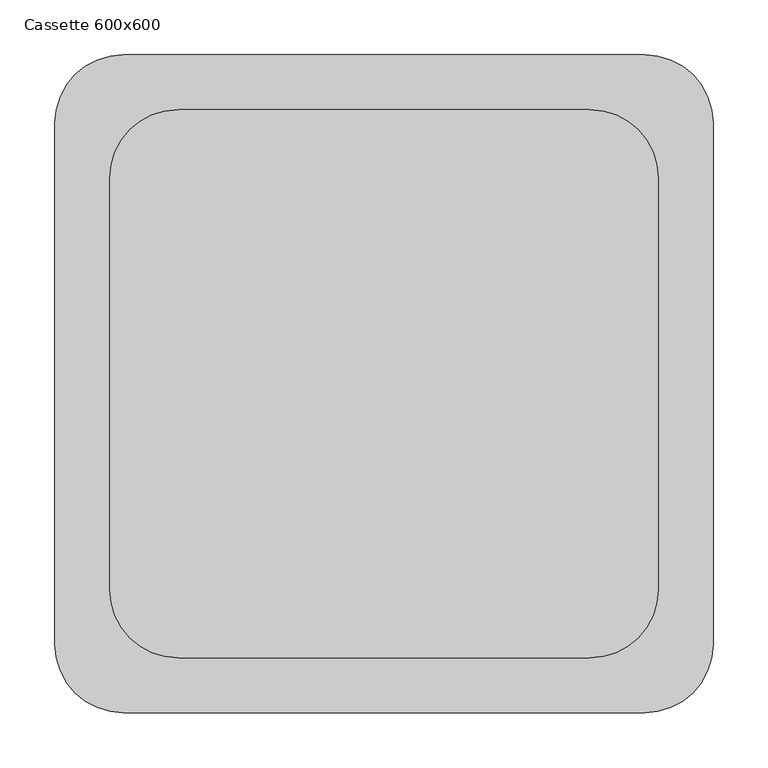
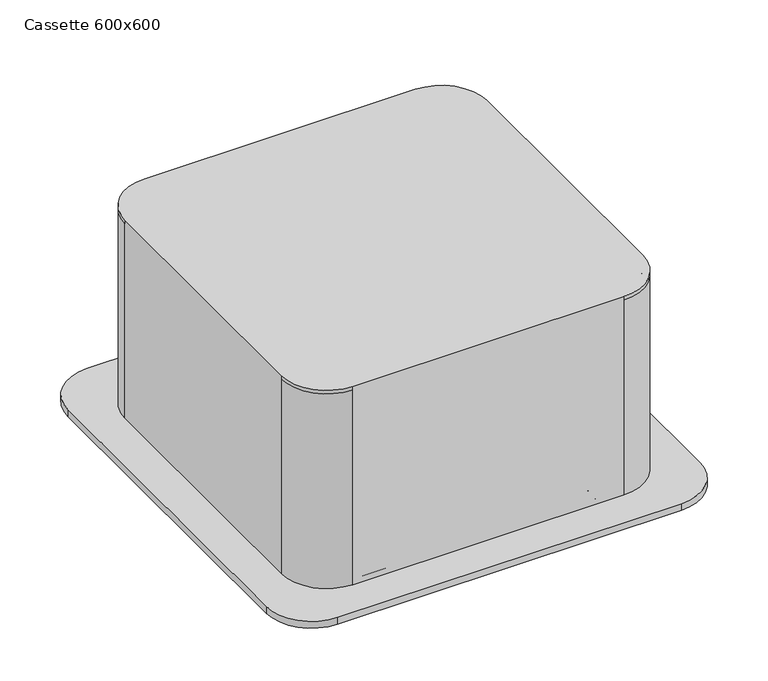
"""IFC4 building model written with IfcOpenShell, lengths in millimetres: proxy geometry, AI_Eqpmt genie clim_Cassette plafonnière : Cassette 600x600."""

from ifc_helpers import new_model, si_unit, point, frame, frame_2d, origin, place, context, project, spatial, polyline, circle_curve, trimmed, segment, composite_curve, outline, extrude, source, transform, mapped, element, save
from ifc_brep_helpers import plane_surface, cylinder_surface, revolved_surface, advanced_brep


def cassette_600x600_07ba985d(model_context):
    return source(origin(), model_context, "Body", "SolidModel", [
        extrude(outline(composite_curve([segment(polyline([(-884.9365817, -8.0), (-884.9365817, -2.0)]), True, "CONTINUOUS"), segment(trimmed(circle_curve(frame_2d((-882.9365817, -2.0)), 2.0), [point((-884.9365817, -2.0))], [point((-882.9365817, 0.0))], False, "CARTESIAN"), True, "CONTINUOUS"), segment(polyline([(-882.9365817, 0.0), (-881.9365817, 0.0)]), True, "CONTINUOUS"), segment(trimmed(circle_curve(frame_2d((-881.9365817, -2.0)), 2.0), [point((-881.9365817, 0.0))], [point((-879.9365817, -2.0))], False, "CARTESIAN"), True, "CONTINUOUS"), segment(polyline([(-879.9365817, -2.0), (-879.9365817, -8.0)]), True, "CONTINUOUS"), segment(trimmed(circle_curve(frame_2d((-881.9365817, -8.0)), 2.0), [point((-879.9365817, -8.0))], [point((-881.9365817, -10.0))], False, "CARTESIAN"), True, "CONTINUOUS"), segment(polyline([(-881.9365817, -10.0), (-882.9365817, -10.0)]), True, "CONTINUOUS"), segment(trimmed(circle_curve(frame_2d((-882.9365817, -8.0)), 2.0), [point((-882.9365817, -10.0))], [point((-884.9365817, -8.0))], False, "CARTESIAN"), True, "CONTINUOUS")], self_intersect=False)), frame((747.7336572, 0.0, 0.0), z_axis=(1.0, 0.0, 0.0), x_axis=(0.0, 1.0, 0.0)), (0.0, 0.0, 1.0), 240.0),
        extrude(outline(composite_curve([segment(polyline([(-861.8315565, -8.0), (-861.8315565, -2.0)]), True, "CONTINUOUS"), segment(trimmed(circle_curve(frame_2d((-859.8315565, -2.0)), 2.0), [point((-861.8315565, -2.0))], [point((-859.8315565, 0.0))], False, "CARTESIAN"), True, "CONTINUOUS"), segment(polyline([(-859.8315565, 0.0), (-858.8315565, 0.0)]), True, "CONTINUOUS"), segment(trimmed(circle_curve(frame_2d((-858.8315565, -2.0)), 2.0), [point((-858.8315565, 0.0))], [point((-856.8315565, -2.0))], False, "CARTESIAN"), True, "CONTINUOUS"), segment(polyline([(-856.8315565, -2.0), (-856.8315565, -8.0)]), True, "CONTINUOUS"), segment(trimmed(circle_curve(frame_2d((-858.8315565, -8.0)), 2.0), [point((-856.8315565, -8.0))], [point((-858.8315565, -10.0))], False, "CARTESIAN"), True, "CONTINUOUS"), segment(polyline([(-858.8315565, -10.0), (-859.8315565, -10.0)]), True, "CONTINUOUS"), segment(trimmed(circle_curve(frame_2d((-859.8315565, -8.0)), 2.0), [point((-859.8315565, -10.0))], [point((-861.8315565, -8.0))], False, "CARTESIAN"), True, "CONTINUOUS")], self_intersect=False)), frame((747.7336572, 0.0, 0.0), z_axis=(1.0, 0.0, 0.0), x_axis=(0.0, 1.0, 0.0)), (0.0, 0.0, 1.0), 240.0),
        extrude(outline(composite_curve([segment(polyline([(-838.7265312, -8.0), (-838.7265312, -2.0)]), True, "CONTINUOUS"), segment(trimmed(circle_curve(frame_2d((-836.7265312, -2.0)), 2.0), [point((-838.7265312, -2.0))], [point((-836.7265312, 0.0))], False, "CARTESIAN"), True, "CONTINUOUS"), segment(polyline([(-836.7265312, 0.0), (-835.7265312, 0.0)]), True, "CONTINUOUS"), segment(trimmed(circle_curve(frame_2d((-835.7265312, -2.0)), 2.0), [point((-835.7265312, 0.0))], [point((-833.7265312, -2.0))], False, "CARTESIAN"), True, "CONTINUOUS"), segment(polyline([(-833.7265312, -2.0), (-833.7265312, -8.0)]), True, "CONTINUOUS"), segment(trimmed(circle_curve(frame_2d((-835.7265312, -8.0)), 2.0), [point((-833.7265312, -8.0))], [point((-835.7265312, -10.0))], False, "CARTESIAN"), True, "CONTINUOUS"), segment(polyline([(-835.7265312, -10.0), (-836.7265312, -10.0)]), True, "CONTINUOUS"), segment(trimmed(circle_curve(frame_2d((-836.7265312, -8.0)), 2.0), [point((-836.7265312, -10.0))], [point((-838.7265312, -8.0))], False, "CARTESIAN"), True, "CONTINUOUS")], self_intersect=False)), frame((747.7336572, 0.0, 0.0), z_axis=(1.0, 0.0, 0.0), x_axis=(0.0, 1.0, 0.0)), (0.0, 0.0, 1.0), 240.0),
        extrude(outline(composite_curve([segment(polyline([(-815.621506, -8.0), (-815.621506, -2.0)]), True, "CONTINUOUS"), segment(trimmed(circle_curve(frame_2d((-813.621506, -2.0)), 2.0), [point((-815.621506, -2.0))], [point((-813.621506, 0.0))], False, "CARTESIAN"), True, "CONTINUOUS"), segment(polyline([(-813.621506, 0.0), (-812.621506, 0.0)]), True, "CONTINUOUS"), segment(trimmed(circle_curve(frame_2d((-812.621506, -2.0)), 2.0), [point((-812.621506, 0.0))], [point((-810.621506, -2.0))], False, "CARTESIAN"), True, "CONTINUOUS"), segment(polyline([(-810.621506, -2.0), (-810.621506, -8.0)]), True, "CONTINUOUS"), segment(trimmed(circle_curve(frame_2d((-812.621506, -8.0)), 2.0), [point((-810.621506, -8.0))], [point((-812.621506, -10.0))], False, "CARTESIAN"), True, "CONTINUOUS"), segment(polyline([(-812.621506, -10.0), (-813.621506, -10.0)]), True, "CONTINUOUS"), segment(trimmed(circle_curve(frame_2d((-813.621506, -8.0)), 2.0), [point((-813.621506, -10.0))], [point((-815.621506, -8.0))], False, "CARTESIAN"), True, "CONTINUOUS")], self_intersect=False)), frame((747.7336572, 0.0, 0.0), z_axis=(1.0, 0.0, 0.0), x_axis=(0.0, 1.0, 0.0)), (0.0, 0.0, 1.0), 240.0),
        extrude(outline(composite_curve([segment(polyline([(-700.0963797, -8.0), (-700.0963797, -2.0)]), True, "CONTINUOUS"), segment(trimmed(circle_curve(frame_2d((-698.0963797, -2.0)), 2.0), [point((-700.0963797, -2.0))], [point((-698.0963797, 0.0))], False, "CARTESIAN"), True, "CONTINUOUS"), segment(polyline([(-698.0963797, 0.0), (-697.0963797, 0.0)]), True, "CONTINUOUS"), segment(trimmed(circle_curve(frame_2d((-697.0963797, -2.0)), 2.0), [point((-697.0963797, 0.0))], [point((-695.0963797, -2.0))], False, "CARTESIAN"), True, "CONTINUOUS"), segment(polyline([(-695.0963797, -2.0), (-695.0963797, -8.0)]), True, "CONTINUOUS"), segment(trimmed(circle_curve(frame_2d((-697.0963797, -8.0)), 2.0), [point((-695.0963797, -8.0))], [point((-697.0963797, -10.0))], False, "CARTESIAN"), True, "CONTINUOUS"), segment(polyline([(-697.0963797, -10.0), (-698.0963797, -10.0)]), True, "CONTINUOUS"), segment(trimmed(circle_curve(frame_2d((-698.0963797, -8.0)), 2.0), [point((-698.0963797, -10.0))], [point((-700.0963797, -8.0))], False, "CARTESIAN"), True, "CONTINUOUS")], self_intersect=False)), frame((747.7336572, 0.0, 0.0), z_axis=(1.0, 0.0, 0.0), x_axis=(0.0, 1.0, 0.0)), (0.0, 0.0, 1.0), 240.0),
        extrude(outline(composite_curve([segment(polyline([(-723.201405, -8.0), (-723.201405, -2.0)]), True, "CONTINUOUS"), segment(trimmed(circle_curve(frame_2d((-721.201405, -2.0)), 2.0), [point((-723.201405, -2.0))], [point((-721.201405, 0.0))], False, "CARTESIAN"), True, "CONTINUOUS"), segment(polyline([(-721.201405, 0.0), (-720.201405, 0.0)]), True, "CONTINUOUS"), segment(trimmed(circle_curve(frame_2d((-720.201405, -2.0)), 2.0), [point((-720.201405, 0.0))], [point((-718.201405, -2.0))], False, "CARTESIAN"), True, "CONTINUOUS"), segment(polyline([(-718.201405, -2.0), (-718.201405, -8.0)]), True, "CONTINUOUS"), segment(trimmed(circle_curve(frame_2d((-720.201405, -8.0)), 2.0), [point((-718.201405, -8.0))], [point((-720.201405, -10.0))], False, "CARTESIAN"), True, "CONTINUOUS"), segment(polyline([(-720.201405, -10.0), (-721.201405, -10.0)]), True, "CONTINUOUS"), segment(trimmed(circle_curve(frame_2d((-721.201405, -8.0)), 2.0), [point((-721.201405, -10.0))], [point((-723.201405, -8.0))], False, "CARTESIAN"), True, "CONTINUOUS")], self_intersect=False)), frame((747.7336572, 0.0, 0.0), z_axis=(1.0, 0.0, 0.0), x_axis=(0.0, 1.0, 0.0)), (0.0, 0.0, 1.0), 240.0),
        extrude(outline(composite_curve([segment(polyline([(-746.3064302, -8.0), (-746.3064302, -2.0)]), True, "CONTINUOUS"), segment(trimmed(circle_curve(frame_2d((-744.3064302, -2.0)), 2.0), [point((-746.3064302, -2.0))], [point((-744.3064302, 0.0))], False, "CARTESIAN"), True, "CONTINUOUS"), segment(polyline([(-744.3064302, 0.0), (-743.3064302, 0.0)]), True, "CONTINUOUS"), segment(trimmed(circle_curve(frame_2d((-743.3064302, -2.0)), 2.0), [point((-743.3064302, 0.0))], [point((-741.3064302, -2.0))], False, "CARTESIAN"), True, "CONTINUOUS"), segment(polyline([(-741.3064302, -2.0), (-741.3064302, -8.0)]), True, "CONTINUOUS"), segment(trimmed(circle_curve(frame_2d((-743.3064302, -8.0)), 2.0), [point((-741.3064302, -8.0))], [point((-743.3064302, -10.0))], False, "CARTESIAN"), True, "CONTINUOUS"), segment(polyline([(-743.3064302, -10.0), (-744.3064302, -10.0)]), True, "CONTINUOUS"), segment(trimmed(circle_curve(frame_2d((-744.3064302, -8.0)), 2.0), [point((-744.3064302, -10.0))], [point((-746.3064302, -8.0))], False, "CARTESIAN"), True, "CONTINUOUS")], self_intersect=False)), frame((747.7336572, 0.0, 0.0), z_axis=(1.0, 0.0, 0.0), x_axis=(0.0, 1.0, 0.0)), (0.0, 0.0, 1.0), 240.0),
        extrude(outline(composite_curve([segment(polyline([(-769.4114555, -8.0), (-769.4114555, -2.0)]), True, "CONTINUOUS"), segment(trimmed(circle_curve(frame_2d((-767.4114555, -2.0)), 2.0), [point((-769.4114555, -2.0))], [point((-767.4114555, 0.0))], False, "CARTESIAN"), True, "CONTINUOUS"), segment(polyline([(-767.4114555, 0.0), (-766.4114555, 0.0)]), True, "CONTINUOUS"), segment(trimmed(circle_curve(frame_2d((-766.4114555, -2.0)), 2.0), [point((-766.4114555, 0.0))], [point((-764.4114555, -2.0))], False, "CARTESIAN"), True, "CONTINUOUS"), segment(polyline([(-764.4114555, -2.0), (-764.4114555, -8.0)]), True, "CONTINUOUS"), segment(trimmed(circle_curve(frame_2d((-766.4114555, -8.0)), 2.0), [point((-764.4114555, -8.0))], [point((-766.4114555, -10.0))], False, "CARTESIAN"), True, "CONTINUOUS"), segment(polyline([(-766.4114555, -10.0), (-767.4114555, -10.0)]), True, "CONTINUOUS"), segment(trimmed(circle_curve(frame_2d((-767.4114555, -8.0)), 2.0), [point((-767.4114555, -10.0))], [point((-769.4114555, -8.0))], False, "CARTESIAN"), True, "CONTINUOUS")], self_intersect=False)), frame((747.7336572, 0.0, 0.0), z_axis=(1.0, 0.0, 0.0), x_axis=(0.0, 1.0, 0.0)), (0.0, 0.0, 1.0), 240.0),
        extrude(outline(composite_curve([segment(polyline([(-908.041607, -8.0), (-908.041607, -2.0)]), True, "CONTINUOUS"), segment(trimmed(circle_curve(frame_2d((-906.041607, -2.0)), 2.0), [point((-908.041607, -2.0))], [point((-906.041607, 0.0))], False, "CARTESIAN"), True, "CONTINUOUS"), segment(polyline([(-906.041607, 0.0), (-905.041607, 0.0)]), True, "CONTINUOUS"), segment(trimmed(circle_curve(frame_2d((-905.041607, -2.0)), 2.0), [point((-905.041607, 0.0))], [point((-903.041607, -2.0))], False, "CARTESIAN"), True, "CONTINUOUS"), segment(polyline([(-903.041607, -2.0), (-903.041607, -8.0)]), True, "CONTINUOUS"), segment(trimmed(circle_curve(frame_2d((-905.041607, -8.0)), 2.0), [point((-903.041607, -8.0))], [point((-905.041607, -10.0))], False, "CARTESIAN"), True, "CONTINUOUS"), segment(polyline([(-905.041607, -10.0), (-906.041607, -10.0)]), True, "CONTINUOUS"), segment(trimmed(circle_curve(frame_2d((-906.041607, -8.0)), 2.0), [point((-906.041607, -10.0))], [point((-908.041607, -8.0))], False, "CARTESIAN"), True, "CONTINUOUS")], self_intersect=False)), frame((747.7336572, 0.0, 0.0), z_axis=(1.0, 0.0, 0.0), x_axis=(0.0, 1.0, 0.0)), (0.0, 0.0, 1.0), 240.0),
        extrude(outline(composite_curve([segment(polyline([(-676.9913545, -8.0), (-676.9913545, -2.0)]), True, "CONTINUOUS"), segment(trimmed(circle_curve(frame_2d((-674.9913545, -2.0)), 2.0), [point((-676.9913545, -2.0))], [point((-674.9913545, 0.0))], False, "CARTESIAN"), True, "CONTINUOUS"), segment(polyline([(-674.9913545, 0.0), (-673.9913545, 0.0)]), True, "CONTINUOUS"), segment(trimmed(circle_curve(frame_2d((-673.9913545, -2.0)), 2.0), [point((-673.9913545, 0.0))], [point((-671.9913545, -2.0))], False, "CARTESIAN"), True, "CONTINUOUS"), segment(polyline([(-671.9913545, -2.0), (-671.9913545, -8.0)]), True, "CONTINUOUS"), segment(trimmed(circle_curve(frame_2d((-673.9913545, -8.0)), 2.0), [point((-671.9913545, -8.0))], [point((-673.9913545, -10.0))], False, "CARTESIAN"), True, "CONTINUOUS"), segment(polyline([(-673.9913545, -10.0), (-674.9913545, -10.0)]), True, "CONTINUOUS"), segment(trimmed(circle_curve(frame_2d((-674.9913545, -8.0)), 2.0), [point((-674.9913545, -10.0))], [point((-676.9913545, -8.0))], False, "CARTESIAN"), True, "CONTINUOUS")], self_intersect=False)), frame((747.7336572, 0.0, 0.0), z_axis=(1.0, 0.0, 0.0), x_axis=(0.0, 1.0, 0.0)), (0.0, 0.0, 1.0), 240.0),
        extrude(outline(composite_curve([segment(polyline([(-792.5164807, -8.0), (-792.5164807, -2.0)]), True, "CONTINUOUS"), segment(trimmed(circle_curve(frame_2d((-790.5164807, -2.0)), 2.0), [point((-792.5164807, -2.0))], [point((-790.5164807, 0.0))], False, "CARTESIAN"), True, "CONTINUOUS"), segment(polyline([(-790.5164807, 0.0), (-789.5164807, 0.0)]), True, "CONTINUOUS"), segment(trimmed(circle_curve(frame_2d((-789.5164807, -2.0)), 2.0), [point((-789.5164807, 0.0))], [point((-787.5164807, -2.0))], False, "CARTESIAN"), True, "CONTINUOUS"), segment(polyline([(-787.5164807, -2.0), (-787.5164807, -8.0)]), True, "CONTINUOUS"), segment(trimmed(circle_curve(frame_2d((-789.5164807, -8.0)), 2.0), [point((-787.5164807, -8.0))], [point((-789.5164807, -10.0))], False, "CARTESIAN"), True, "CONTINUOUS"), segment(polyline([(-789.5164807, -10.0), (-790.5164807, -10.0)]), True, "CONTINUOUS"), segment(trimmed(circle_curve(frame_2d((-790.5164807, -8.0)), 2.0), [point((-790.5164807, -10.0))], [point((-792.5164807, -8.0))], False, "CARTESIAN"), True, "CONTINUOUS")], self_intersect=False)), frame((747.7336572, 0.0, 0.0), z_axis=(1.0, 0.0, 0.0), x_axis=(0.0, 1.0, 0.0)), (0.0, 0.0, 1.0), 240.0),
        extrude(outline(polyline([(992.7336572, -915.0164807), (742.7336572, -915.0164807), (742.7336572, -665.0164807), (992.7336572, -665.0164807), (992.7336572, -915.0164807)]), holes=[polyline([(987.7336572, -910.0164807), (987.7336572, -670.0164807), (747.7336572, -670.0164807), (747.7336572, -910.0164807), (987.7336572, -910.0164807)])]), frame((0.0, 0.0, -10.0), z_axis=(0.0, 0.0, 1.0), x_axis=(1.0, 0.0, 0.0)), (0.0, 0.0, 1.0), 10.0),
        extrude(outline(composite_curve([segment(polyline([(-5.8786797, 1097.1478708), (-1.636039, 1092.9052301)]), True, "CONTINUOUS"), segment(trimmed(circle_curve(frame_2d((-3.0502525, 1091.4910166)), 2.0), [point((-1.636039, 1092.9052301))], [point((-1.636039, 1090.076803))], False, "CARTESIAN"), True, "CONTINUOUS"), segment(polyline([(-1.636039, 1090.076803), (-2.3431458, 1089.3696962)]), True, "CONTINUOUS"), segment(trimmed(circle_curve(frame_2d((-3.7573593, 1090.7839098)), 2.0), [point((-2.3431458, 1089.3696962))], [point((-5.1715729, 1089.3696962))], False, "CARTESIAN"), True, "CONTINUOUS"), segment(polyline([(-5.1715729, 1089.3696962), (-9.4142136, 1093.6123369)]), True, "CONTINUOUS"), segment(trimmed(circle_curve(frame_2d((-8.0, 1095.0265505)), 2.0), [point((-9.4142136, 1093.6123369))], [point((-9.4142136, 1096.440764))], False, "CARTESIAN"), True, "CONTINUOUS"), segment(polyline([(-9.4142136, 1096.440764), (-8.7071068, 1097.1478708)]), True, "CONTINUOUS"), segment(trimmed(circle_curve(frame_2d((-7.2928932, 1095.7336572)), 2.0), [point((-8.7071068, 1097.1478708))], [point((-5.8786797, 1097.1478708))], False, "CARTESIAN"), True, "CONTINUOUS")], self_intersect=False)), frame((0.0, -951.6831474, 0.0), z_axis=(0.0, 1.0, 0.0), x_axis=(0.0, 0.0, 1.0)), (0.0, 0.0, 1.0), 323.3333333),
        extrude(outline(composite_curve([segment(polyline([(-5.8786797, 1060.5420627), (-1.636039, 1056.299422)]), True, "CONTINUOUS"), segment(trimmed(circle_curve(frame_2d((-3.0502525, 1054.8852085)), 2.0), [point((-1.636039, 1056.299422))], [point((-1.636039, 1053.4709949))], False, "CARTESIAN"), True, "CONTINUOUS"), segment(polyline([(-1.636039, 1053.4709949), (-2.3431458, 1052.7638881)]), True, "CONTINUOUS"), segment(trimmed(circle_curve(frame_2d((-3.7573593, 1054.1781017)), 2.0), [point((-2.3431458, 1052.7638881))], [point((-5.1715729, 1052.7638881))], False, "CARTESIAN"), True, "CONTINUOUS"), segment(polyline([(-5.1715729, 1052.7638881), (-9.4142136, 1057.0065288)]), True, "CONTINUOUS"), segment(trimmed(circle_curve(frame_2d((-8.0, 1058.4207424)), 2.0), [point((-9.4142136, 1057.0065288))], [point((-9.4142136, 1059.8349559))], False, "CARTESIAN"), True, "CONTINUOUS"), segment(polyline([(-9.4142136, 1059.8349559), (-8.7071068, 1060.5420627)]), True, "CONTINUOUS"), segment(trimmed(circle_curve(frame_2d((-7.2928932, 1059.1278492)), 2.0), [point((-8.7071068, 1060.5420627))], [point((-5.8786797, 1060.5420627))], False, "CARTESIAN"), True, "CONTINUOUS")], self_intersect=False)), frame((0.0, -951.6831474, 0.0), z_axis=(0.0, 1.0, 0.0), x_axis=(0.0, 0.0, 1.0)), (0.0, 0.0, 1.0), 323.3333333),
        extrude(outline(composite_curve([segment(polyline([(-5.8786797, 1078.8449668), (-1.636039, 1074.6023261)]), True, "CONTINUOUS"), segment(trimmed(circle_curve(frame_2d((-3.0502525, 1073.1881125)), 2.0), [point((-1.636039, 1074.6023261))], [point((-1.636039, 1071.773899))], False, "CARTESIAN"), True, "CONTINUOUS"), segment(polyline([(-1.636039, 1071.773899), (-2.3431458, 1071.0667922)]), True, "CONTINUOUS"), segment(trimmed(circle_curve(frame_2d((-3.7573593, 1072.4810057)), 2.0), [point((-2.3431458, 1071.0667922))], [point((-5.1715729, 1071.0667922))], False, "CARTESIAN"), True, "CONTINUOUS"), segment(polyline([(-5.1715729, 1071.0667922), (-9.4142136, 1075.3094329)]), True, "CONTINUOUS"), segment(trimmed(circle_curve(frame_2d((-8.0, 1076.7236464)), 2.0), [point((-9.4142136, 1075.3094329))], [point((-9.4142136, 1078.13786))], False, "CARTESIAN"), True, "CONTINUOUS"), segment(polyline([(-9.4142136, 1078.13786), (-8.7071068, 1078.8449668)]), True, "CONTINUOUS"), segment(trimmed(circle_curve(frame_2d((-7.2928932, 1077.4307532)), 2.0), [point((-8.7071068, 1078.8449668))], [point((-5.8786797, 1078.8449668))], False, "CARTESIAN"), True, "CONTINUOUS")], self_intersect=False)), frame((0.0, -951.6831474, 0.0), z_axis=(0.0, 1.0, 0.0), x_axis=(0.0, 0.0, 1.0)), (0.0, 0.0, 1.0), 323.3333333),
        extrude(outline(polyline([(1102.7336572, -956.6831474), (1047.1781017, -956.6831474), (1047.1781017, -623.3498141), (1102.7336572, -623.3498141), (1102.7336572, -956.6831474)]), holes=[polyline([(1097.7336572, -951.6831474), (1097.7336572, -628.3498141), (1052.1781017, -628.3498141), (1052.1781017, -951.6831474), (1097.7336572, -951.6831474)])]), frame((0.0, 0.0, -10.0), z_axis=(0.0, 0.0, 1.0), x_axis=(1.0, 0.0, 0.0)), (0.0, 0.0, 1.0), 10.0),
        extrude(outline(composite_curve([segment(trimmed(circle_curve(frame_2d((-7.2928932, 639.7336572)), 2.0), [point((-5.8786797, 638.3194437))], [point((-8.7071068, 638.3194437))], False, "CARTESIAN"), True, "CONTINUOUS"), segment(polyline([(-8.7071068, 638.3194437), (-9.4142136, 639.0265505)]), True, "CONTINUOUS"), segment(trimmed(circle_curve(frame_2d((-8.0, 640.440764)), 2.0), [point((-9.4142136, 639.0265505))], [point((-9.4142136, 641.8549776))], False, "CARTESIAN"), True, "CONTINUOUS"), segment(polyline([(-9.4142136, 641.8549776), (-5.1715729, 646.0976183)]), True, "CONTINUOUS"), segment(trimmed(circle_curve(frame_2d((-3.7573593, 644.6834047)), 2.0), [point((-5.1715729, 646.0976183))], [point((-2.3431458, 646.0976183))], False, "CARTESIAN"), True, "CONTINUOUS"), segment(polyline([(-2.3431458, 646.0976183), (-1.636039, 645.3905115)]), True, "CONTINUOUS"), segment(trimmed(circle_curve(frame_2d((-3.0502525, 643.9762979)), 2.0), [point((-1.636039, 645.3905115))], [point((-1.636039, 642.5620844))], False, "CARTESIAN"), True, "CONTINUOUS"), segment(polyline([(-1.636039, 642.5620844), (-5.8786797, 638.3194437)]), True, "CONTINUOUS")], self_intersect=False)), frame((0.0, -951.6831474, 0.0), z_axis=(0.0, 1.0, 0.0), x_axis=(0.0, 0.0, 1.0)), (0.0, 0.0, 1.0), 323.3333333),
        extrude(outline(composite_curve([segment(trimmed(circle_curve(frame_2d((-7.2928932, 676.3394653)), 2.0), [point((-5.8786797, 674.9252518))], [point((-8.7071068, 674.9252518))], False, "CARTESIAN"), True, "CONTINUOUS"), segment(polyline([(-8.7071068, 674.9252518), (-9.4142136, 675.6323586)]), True, "CONTINUOUS"), segment(trimmed(circle_curve(frame_2d((-8.0, 677.0465721)), 2.0), [point((-9.4142136, 675.6323586))], [point((-9.4142136, 678.4607857))], False, "CARTESIAN"), True, "CONTINUOUS"), segment(polyline([(-9.4142136, 678.4607857), (-5.1715729, 682.7034264)]), True, "CONTINUOUS"), segment(trimmed(circle_curve(frame_2d((-3.7573593, 681.2892128)), 2.0), [point((-5.1715729, 682.7034264))], [point((-2.3431458, 682.7034264))], False, "CARTESIAN"), True, "CONTINUOUS"), segment(polyline([(-2.3431458, 682.7034264), (-1.636039, 681.9963196)]), True, "CONTINUOUS"), segment(trimmed(circle_curve(frame_2d((-3.0502525, 680.582106)), 2.0), [point((-1.636039, 681.9963196))], [point((-1.636039, 679.1678925))], False, "CARTESIAN"), True, "CONTINUOUS"), segment(polyline([(-1.636039, 679.1678925), (-5.8786797, 674.9252518)]), True, "CONTINUOUS")], self_intersect=False)), frame((0.0, -951.6831474, 0.0), z_axis=(0.0, 1.0, 0.0), x_axis=(0.0, 0.0, 1.0)), (0.0, 0.0, 1.0), 323.3333333),
        extrude(outline(composite_curve([segment(trimmed(circle_curve(frame_2d((-7.2928932, 658.0365613)), 2.0), [point((-5.8786797, 656.6223477))], [point((-8.7071068, 656.6223477))], False, "CARTESIAN"), True, "CONTINUOUS"), segment(polyline([(-8.7071068, 656.6223477), (-9.4142136, 657.3294545)]), True, "CONTINUOUS"), segment(trimmed(circle_curve(frame_2d((-8.0, 658.7436681)), 2.0), [point((-9.4142136, 657.3294545))], [point((-9.4142136, 660.1578816))], False, "CARTESIAN"), True, "CONTINUOUS"), segment(polyline([(-9.4142136, 660.1578816), (-5.1715729, 664.4005223)]), True, "CONTINUOUS"), segment(trimmed(circle_curve(frame_2d((-3.7573593, 662.9863088)), 2.0), [point((-5.1715729, 664.4005223))], [point((-2.3431458, 664.4005223))], False, "CARTESIAN"), True, "CONTINUOUS"), segment(polyline([(-2.3431458, 664.4005223), (-1.636039, 663.6934155)]), True, "CONTINUOUS"), segment(trimmed(circle_curve(frame_2d((-3.0502525, 662.279202)), 2.0), [point((-1.636039, 663.6934155))], [point((-1.636039, 660.8649884))], False, "CARTESIAN"), True, "CONTINUOUS"), segment(polyline([(-1.636039, 660.8649884), (-5.8786797, 656.6223477)]), True, "CONTINUOUS")], self_intersect=False)), frame((0.0, -951.6831474, 0.0), z_axis=(0.0, 1.0, 0.0), x_axis=(0.0, 0.0, 1.0)), (0.0, 0.0, 1.0), 323.3333333),
        extrude(outline(polyline([(632.7336572, -956.6831474), (632.7336572, -623.3498141), (688.2892128, -623.3498141), (688.2892128, -956.6831474), (632.7336572, -956.6831474)]), holes=[polyline([(637.7336572, -951.6831474), (683.2892128, -951.6831474), (683.2892128, -628.3498141), (637.7336572, -628.3498141), (637.7336572, -951.6831474)])]), frame((0.0, 0.0, -10.0), z_axis=(0.0, 0.0, 1.0), x_axis=(1.0, 0.0, 0.0)), (0.0, 0.0, 1.0), 10.0),
        extrude(outline(composite_curve([segment(trimmed(circle_curve(frame_2d((-562.0164807, -7.2928932)), 2.0), [point((-560.6022672, -5.8786797))], [point((-560.6022672, -8.7071068))], False, "CARTESIAN"), True, "CONTINUOUS"), segment(polyline([(-560.6022672, -8.7071068), (-561.3093739, -9.4142136)]), True, "CONTINUOUS"), segment(trimmed(circle_curve(frame_2d((-562.7235875, -8.0)), 2.0), [point((-561.3093739, -9.4142136))], [point((-564.1378011, -9.4142136))], False, "CARTESIAN"), True, "CONTINUOUS"), segment(polyline([(-564.1378011, -9.4142136), (-568.3804418, -5.1715729)]), True, "CONTINUOUS"), segment(trimmed(circle_curve(frame_2d((-566.9662282, -3.7573593)), 2.0), [point((-568.3804418, -5.1715729))], [point((-568.3804418, -2.3431458))], False, "CARTESIAN"), True, "CONTINUOUS"), segment(polyline([(-568.3804418, -2.3431458), (-567.673335, -1.636039)]), True, "CONTINUOUS"), segment(trimmed(circle_curve(frame_2d((-566.2591214, -3.0502525)), 2.0), [point((-567.673335, -1.636039))], [point((-564.8449078, -1.636039))], False, "CARTESIAN"), True, "CONTINUOUS"), segment(polyline([(-564.8449078, -1.636039), (-560.6022672, -5.8786797)]), True, "CONTINUOUS")], self_intersect=False)), frame((706.0669906, 0.0, 0.0), z_axis=(1.0, 0.0, 0.0), x_axis=(0.0, 1.0, 0.0)), (0.0, 0.0, 1.0), 323.3333333),
        extrude(outline(composite_curve([segment(trimmed(circle_curve(frame_2d((-598.6222888, -7.2928932)), 2.0), [point((-597.2080752, -5.8786797))], [point((-597.2080752, -8.7071068))], False, "CARTESIAN"), True, "CONTINUOUS"), segment(polyline([(-597.2080752, -8.7071068), (-597.915182, -9.4142136)]), True, "CONTINUOUS"), segment(trimmed(circle_curve(frame_2d((-599.3293956, -8.0)), 2.0), [point((-597.915182, -9.4142136))], [point((-600.7436092, -9.4142136))], False, "CARTESIAN"), True, "CONTINUOUS"), segment(polyline([(-600.7436092, -9.4142136), (-604.9862498, -5.1715729)]), True, "CONTINUOUS"), segment(trimmed(circle_curve(frame_2d((-603.5720363, -3.7573593)), 2.0), [point((-604.9862498, -5.1715729))], [point((-604.9862498, -2.3431458))], False, "CARTESIAN"), True, "CONTINUOUS"), segment(polyline([(-604.9862498, -2.3431458), (-604.2791431, -1.636039)]), True, "CONTINUOUS"), segment(trimmed(circle_curve(frame_2d((-602.8649295, -3.0502525)), 2.0), [point((-604.2791431, -1.636039))], [point((-601.4507159, -1.636039))], False, "CARTESIAN"), True, "CONTINUOUS"), segment(polyline([(-601.4507159, -1.636039), (-597.2080752, -5.8786797)]), True, "CONTINUOUS")], self_intersect=False)), frame((706.0669906, 0.0, 0.0), z_axis=(1.0, 0.0, 0.0), x_axis=(0.0, 1.0, 0.0)), (0.0, 0.0, 1.0), 323.3333333),
        extrude(outline(composite_curve([segment(trimmed(circle_curve(frame_2d((-580.3193848, -7.2928932)), 2.0), [point((-578.9051712, -5.8786797))], [point((-578.9051712, -8.7071068))], False, "CARTESIAN"), True, "CONTINUOUS"), segment(polyline([(-578.9051712, -8.7071068), (-579.612278, -9.4142136)]), True, "CONTINUOUS"), segment(trimmed(circle_curve(frame_2d((-581.0264915, -8.0)), 2.0), [point((-579.612278, -9.4142136))], [point((-582.4407051, -9.4142136))], False, "CARTESIAN"), True, "CONTINUOUS"), segment(polyline([(-582.4407051, -9.4142136), (-586.6833458, -5.1715729)]), True, "CONTINUOUS"), segment(trimmed(circle_curve(frame_2d((-585.2691322, -3.7573593)), 2.0), [point((-586.6833458, -5.1715729))], [point((-586.6833458, -2.3431458))], False, "CARTESIAN"), True, "CONTINUOUS"), segment(polyline([(-586.6833458, -2.3431458), (-585.976239, -1.636039)]), True, "CONTINUOUS"), segment(trimmed(circle_curve(frame_2d((-584.5620255, -3.0502525)), 2.0), [point((-585.976239, -1.636039))], [point((-583.1478119, -1.636039))], False, "CARTESIAN"), True, "CONTINUOUS"), segment(polyline([(-583.1478119, -1.636039), (-578.9051712, -5.8786797)]), True, "CONTINUOUS")], self_intersect=False)), frame((706.0669906, 0.0, 0.0), z_axis=(1.0, 0.0, 0.0), x_axis=(0.0, 1.0, 0.0)), (0.0, 0.0, 1.0), 323.3333333),
        extrude(outline(polyline([(1034.4003239, -555.0164807), (1034.4003239, -610.5720363), (701.0669906, -610.5720363), (701.0669906, -555.0164807), (1034.4003239, -555.0164807)]), holes=[polyline([(1029.4003239, -560.0164807), (706.0669906, -560.0164807), (706.0669906, -605.5720363), (1029.4003239, -605.5720363), (1029.4003239, -560.0164807)])]), frame((0.0, 0.0, -10.0), z_axis=(0.0, 0.0, 1.0), x_axis=(1.0, 0.0, 0.0)), (0.0, 0.0, 1.0), 10.0),
        extrude(outline(composite_curve([segment(polyline([(-1019.4306943, -5.8786797), (-1015.1880536, -1.636039)]), True, "CONTINUOUS"), segment(trimmed(circle_curve(frame_2d((-1013.77384, -3.0502525)), 2.0), [point((-1015.1880536, -1.636039))], [point((-1012.3596265, -1.636039))], False, "CARTESIAN"), True, "CONTINUOUS"), segment(polyline([(-1012.3596265, -1.636039), (-1011.6525197, -2.3431458)]), True, "CONTINUOUS"), segment(trimmed(circle_curve(frame_2d((-1013.0667333, -3.7573593)), 2.0), [point((-1011.6525197, -2.3431458))], [point((-1011.6525197, -5.1715729))], False, "CARTESIAN"), True, "CONTINUOUS"), segment(polyline([(-1011.6525197, -5.1715729), (-1015.8951604, -9.4142136)]), True, "CONTINUOUS"), segment(trimmed(circle_curve(frame_2d((-1017.3093739, -8.0)), 2.0), [point((-1015.8951604, -9.4142136))], [point((-1018.7235875, -9.4142136))], False, "CARTESIAN"), True, "CONTINUOUS"), segment(polyline([(-1018.7235875, -9.4142136), (-1019.4306943, -8.7071068)]), True, "CONTINUOUS"), segment(trimmed(circle_curve(frame_2d((-1018.0164807, -7.2928932)), 2.0), [point((-1019.4306943, -8.7071068))], [point((-1019.4306943, -5.8786797))], False, "CARTESIAN"), True, "CONTINUOUS")], self_intersect=False)), frame((706.0669906, 0.0, 0.0), z_axis=(1.0, 0.0, 0.0), x_axis=(0.0, 1.0, 0.0)), (0.0, 0.0, 1.0), 323.3333333),
        extrude(outline(composite_curve([segment(polyline([(-982.8248862, -5.8786797), (-978.5822455, -1.636039)]), True, "CONTINUOUS"), segment(trimmed(circle_curve(frame_2d((-977.1680319, -3.0502525)), 2.0), [point((-978.5822455, -1.636039))], [point((-975.7538184, -1.636039))], False, "CARTESIAN"), True, "CONTINUOUS"), segment(polyline([(-975.7538184, -1.636039), (-975.0467116, -2.3431458)]), True, "CONTINUOUS"), segment(trimmed(circle_curve(frame_2d((-976.4609252, -3.7573593)), 2.0), [point((-975.0467116, -2.3431458))], [point((-975.0467116, -5.1715729))], False, "CARTESIAN"), True, "CONTINUOUS"), segment(polyline([(-975.0467116, -5.1715729), (-979.2893523, -9.4142136)]), True, "CONTINUOUS"), segment(trimmed(circle_curve(frame_2d((-980.7035659, -8.0)), 2.0), [point((-979.2893523, -9.4142136))], [point((-982.1177794, -9.4142136))], False, "CARTESIAN"), True, "CONTINUOUS"), segment(polyline([(-982.1177794, -9.4142136), (-982.8248862, -8.7071068)]), True, "CONTINUOUS"), segment(trimmed(circle_curve(frame_2d((-981.4106726, -7.2928932)), 2.0), [point((-982.8248862, -8.7071068))], [point((-982.8248862, -5.8786797))], False, "CARTESIAN"), True, "CONTINUOUS")], self_intersect=False)), frame((706.0669906, 0.0, 0.0), z_axis=(1.0, 0.0, 0.0), x_axis=(0.0, 1.0, 0.0)), (0.0, 0.0, 1.0), 323.3333333),
        extrude(outline(composite_curve([segment(polyline([(-1001.1277902, -5.8786797), (-996.8851496, -1.636039)]), True, "CONTINUOUS"), segment(trimmed(circle_curve(frame_2d((-995.470936, -3.0502525)), 2.0), [point((-996.8851496, -1.636039))], [point((-994.0567224, -1.636039))], False, "CARTESIAN"), True, "CONTINUOUS"), segment(polyline([(-994.0567224, -1.636039), (-993.3496156, -2.3431458)]), True, "CONTINUOUS"), segment(trimmed(circle_curve(frame_2d((-994.7638292, -3.7573593)), 2.0), [point((-993.3496156, -2.3431458))], [point((-993.3496156, -5.1715729))], False, "CARTESIAN"), True, "CONTINUOUS"), segment(polyline([(-993.3496156, -5.1715729), (-997.5922563, -9.4142136)]), True, "CONTINUOUS"), segment(trimmed(circle_curve(frame_2d((-999.0064699, -8.0)), 2.0), [point((-997.5922563, -9.4142136))], [point((-1000.4206835, -9.4142136))], False, "CARTESIAN"), True, "CONTINUOUS"), segment(polyline([(-1000.4206835, -9.4142136), (-1001.1277902, -8.7071068)]), True, "CONTINUOUS"), segment(trimmed(circle_curve(frame_2d((-999.7135767, -7.2928932)), 2.0), [point((-1001.1277902, -8.7071068))], [point((-1001.1277902, -5.8786797))], False, "CARTESIAN"), True, "CONTINUOUS")], self_intersect=False)), frame((706.0669906, 0.0, 0.0), z_axis=(1.0, 0.0, 0.0), x_axis=(0.0, 1.0, 0.0)), (0.0, 0.0, 1.0), 323.3333333),
        extrude(outline(polyline([(1034.4003239, -1025.0164807), (701.0669906, -1025.0164807), (701.0669906, -969.4609252), (1034.4003239, -969.4609252), (1034.4003239, -1025.0164807)]), holes=[polyline([(1029.4003239, -1020.0164807), (1029.4003239, -974.4609252), (706.0669906, -974.4609252), (706.0669906, -1020.0164807), (1029.4003239, -1020.0164807)])]), frame((0.0, 0.0, -10.0), z_axis=(0.0, 0.0, 1.0), x_axis=(1.0, 0.0, 0.0)), (0.0, 0.0, 1.0), 10.0),
        advanced_brep(
        [(680.2336572, -1040.0164807, 290.0), (1055.2336572, -1040.0164807, 290.0), (1117.7336572, -977.5164807, 290.0), (1117.7336572, -602.5164807, 290.0), (1055.2336572, -540.0164807, 290.0), (680.2336572, -540.0164807, 290.0), (617.7336572, -602.5164807, 290.0), (617.7336572, -977.5164807, 290.0), (680.2336572, -550.0164807, 285.0), (1055.2336572, -550.0164807, 285.0), (1107.7336572, -602.5164807, 285.0), (1107.7336572, -977.5164807, 285.0), (1055.2336572, -1030.0164807, 285.0), (680.2336572, -1030.0164807, 285.0), (627.7336572, -977.5164807, 285.0), (627.7336572, -602.5164807, 285.0), (680.2336572, -1040.0164807, 285.0), (680.2336572, -1040.0164807, 0.0), (1055.2336572, -1040.0164807, 0.0), (1055.2336572, -1040.0164807, 285.0), (1117.7336572, -977.5164807, 285.0), (1117.7336572, -977.5164807, 0.0), (1117.7336572, -602.5164807, 0.0), (1117.7336572, -602.5164807, 285.0), (1055.2336572, -540.0164807, 285.0), (1055.2336572, -540.0164807, 0.0), (680.2336572, -540.0164807, 0.0), (680.2336572, -540.0164807, 285.0), (617.7336572, -602.5164807, 285.0), (617.7336572, -602.5164807, 0.0), (617.7336572, -977.5164807, 0.0), (617.7336572, -977.5164807, 285.0), (680.2336572, -550.0164807, 0.0), (627.7336572, -602.5164807, 0.0), (627.7336572, -977.5164807, 0.0), (680.2336572, -1030.0164807, 0.0), (1055.2336572, -1030.0164807, 0.0), (1107.7336572, -977.5164807, 0.0), (1107.7336572, -602.5164807, 0.0), (1055.2336572, -550.0164807, 0.0)],
        [
            (0, 1),
            (1, 2, circle_curve(frame((1055.2336572, -977.5164807, 290.0), z_axis=(0.0, 0.0, 1.0), x_axis=(1.0, 0.0, 0.0)), 62.5)),
            (2, 3),
            (3, 4, circle_curve(frame((1055.2336572, -602.5164807, 290.0), z_axis=(0.0, 0.0, 1.0), x_axis=(1.0, 0.0, 0.0)), 62.5)),
            (4, 5),
            (5, 6, circle_curve(frame((680.2336572, -602.5164807, 290.0), z_axis=(0.0, 0.0, 1.0), x_axis=(1.0, 0.0, 0.0)), 62.5)),
            (6, 7),
            (7, 0, circle_curve(frame((680.2336572, -977.5164807, 290.0), z_axis=(0.0, 0.0, 1.0), x_axis=(1.0, 0.0, 0.0)), 62.5)),
            (8, 9),
            (9, 10, circle_curve(frame((1055.2336572, -602.5164807, 285.0), z_axis=(0.0, 0.0, -1.0), x_axis=(1.0, 0.0, 0.0)), 52.5)),
            (10, 11),
            (11, 12, circle_curve(frame((1055.2336572, -977.5164807, 285.0), z_axis=(0.0, 0.0, -1.0), x_axis=(1.0, 0.0, 0.0)), 52.5)),
            (12, 13),
            (13, 14, circle_curve(frame((680.2336572, -977.5164807, 285.0), z_axis=(0.0, 0.0, -1.0), x_axis=(1.0, 0.0, 0.0)), 52.5)),
            (14, 15),
            (15, 8, circle_curve(frame((680.2336572, -602.5164807, 285.0), z_axis=(0.0, 0.0, -1.0), x_axis=(1.0, 0.0, 0.0)), 52.5)),
            (0, 16),
            (16, 17),
            (17, 18),
            (18, 19),
            (19, 1),
            (19, 20, circle_curve(frame((1055.2336572, -977.5164807, 285.0), z_axis=(0.0, 0.0, 1.0), x_axis=(1.0, 0.0, 0.0)), 62.5)),
            (20, 2),
            (20, 21),
            (21, 22),
            (22, 23),
            (23, 3),
            (23, 24, circle_curve(frame((1055.2336572, -602.5164807, 285.0), z_axis=(0.0, 0.0, 1.0), x_axis=(1.0, 0.0, 0.0)), 62.5)),
            (24, 4),
            (24, 25),
            (25, 26),
            (26, 27),
            (27, 5),
            (27, 28, circle_curve(frame((680.2336572, -602.5164807, 285.0), z_axis=(0.0, 0.0, 1.0), x_axis=(1.0, 0.0, 0.0)), 62.5)),
            (28, 6),
            (28, 29),
            (29, 30),
            (30, 31),
            (31, 7),
            (31, 16, circle_curve(frame((680.2336572, -977.5164807, 285.0), z_axis=(0.0, 0.0, 1.0), x_axis=(1.0, 0.0, 0.0)), 62.5)),
            (25, 22, circle_curve(frame((1055.2336572, -602.5164807, 0.0), z_axis=(0.0, 0.0, -1.0), x_axis=(1.0, 0.0, 0.0)), 62.5)),
            (21, 18, circle_curve(frame((1055.2336572, -977.5164807, 0.0), z_axis=(0.0, 0.0, -1.0), x_axis=(1.0, 0.0, 0.0)), 62.5)),
            (17, 30, circle_curve(frame((680.2336572, -977.5164807, 0.0), z_axis=(0.0, 0.0, -1.0), x_axis=(1.0, 0.0, 0.0)), 62.5)),
            (29, 26, circle_curve(frame((680.2336572, -602.5164807, 0.0), z_axis=(0.0, 0.0, -1.0), x_axis=(1.0, 0.0, 0.0)), 62.5)),
            (32, 33, circle_curve(frame((680.2336572, -602.5164807, 0.0), z_axis=(0.0, 0.0, 1.0), x_axis=(1.0, 0.0, 0.0)), 52.5)),
            (33, 34),
            (34, 35, circle_curve(frame((680.2336572, -977.5164807, 0.0), z_axis=(0.0, 0.0, 1.0), x_axis=(1.0, 0.0, 0.0)), 52.5)),
            (35, 36),
            (36, 37, circle_curve(frame((1055.2336572, -977.5164807, 0.0), z_axis=(0.0, 0.0, 1.0), x_axis=(1.0, 0.0, 0.0)), 52.5)),
            (37, 38),
            (38, 39, circle_curve(frame((1055.2336572, -602.5164807, 0.0), z_axis=(0.0, 0.0, 1.0), x_axis=(1.0, 0.0, 0.0)), 52.5)),
            (39, 32),
            (39, 9),
            (8, 32),
            (38, 10),
            (37, 11),
            (36, 12),
            (35, 13),
            (34, 14),
            (33, 15),
        ],
        [
            plane_surface(frame((680.2336572, -1040.0164807, 290.0), z_axis=(0.0, 0.0, 1.0), x_axis=(1.0, 0.0, 0.0))),
            plane_surface(frame((680.2336572, -1040.0164807, 285.0), z_axis=(0.0, 0.0, -1.0), x_axis=(-1.0, 0.0, 0.0))),
            plane_surface(frame((680.2336572, -1040.0164807, 290.0), z_axis=(0.0, -1.0, 0.0), x_axis=(0.0, 0.0, -1.0))),
            cylinder_surface(frame((1055.2336572, -977.5164807, 285.0), z_axis=(0.0, 0.0, 1.0), x_axis=(1.0, 0.0, 0.0)), 62.5),
            plane_surface(frame((1117.7336572, -977.5164807, 290.0), z_axis=(1.0, 0.0, 0.0), x_axis=(0.0, 0.0, -1.0))),
            cylinder_surface(frame((1055.2336572, -602.5164807, 285.0), z_axis=(0.0, 0.0, 1.0), x_axis=(1.0, 0.0, 0.0)), 62.5),
            plane_surface(frame((1055.2336572, -540.0164807, 290.0), z_axis=(0.0, 1.0, 0.0), x_axis=(0.0, 0.0, -1.0))),
            cylinder_surface(frame((680.2336572, -602.5164807, 285.0), z_axis=(0.0, 0.0, 1.0), x_axis=(1.0, 0.0, 0.0)), 62.5),
            plane_surface(frame((617.7336572, -602.5164807, 290.0), z_axis=(-1.0, 0.0, 0.0), x_axis=(0.0, 0.0, -1.0))),
            cylinder_surface(frame((680.2336572, -977.5164807, 285.0), z_axis=(0.0, 0.0, 1.0), x_axis=(1.0, 0.0, 0.0)), 62.5),
            plane_surface(frame((680.2336572, -540.0164807, 0.0), z_axis=(0.0, 0.0, -1.0), x_axis=(1.0, 0.0, 0.0))),
            cylinder_surface(frame((680.2336572, -602.5164807, 0.0), z_axis=(0.0, 0.0, 1.0), x_axis=(1.0, 0.0, 0.0)), 62.5),
            cylinder_surface(frame((680.2336572, -977.5164807, 0.0), z_axis=(0.0, 0.0, 1.0), x_axis=(1.0, 0.0, 0.0)), 62.5),
            cylinder_surface(frame((1055.2336572, -977.5164807, 0.0), z_axis=(0.0, 0.0, 1.0), x_axis=(1.0, 0.0, 0.0)), 62.5),
            cylinder_surface(frame((1055.2336572, -602.5164807, 0.0), z_axis=(0.0, 0.0, 1.0), x_axis=(1.0, 0.0, 0.0)), 62.5),
            plane_surface(frame((680.2336572, -550.0164807, 285.0), z_axis=(0.0, -1.0, 0.0), x_axis=(0.0, 0.0, -1.0))),
            revolved_surface(polyline([(1107.7336572, -602.5164807, 0.0), (1107.7336572, -602.5164807, 285.0)]), (1055.2336572, -602.5164807, 0.0), (0.0, 0.0, -1.0)),
            plane_surface(frame((1107.7336572, -602.5164807, 285.0), z_axis=(-1.0, 0.0, 0.0), x_axis=(0.0, 0.0, -1.0))),
            revolved_surface(polyline([(1107.7336572, -977.5164807, 0.0), (1107.7336572, -977.5164807, 285.0)]), (1055.2336572, -977.5164807, 0.0), (0.0, 0.0, -1.0)),
            plane_surface(frame((1055.2336572, -1030.0164807, 285.0), z_axis=(0.0, 1.0, 0.0), x_axis=(0.0, 0.0, -1.0))),
            revolved_surface(polyline([(732.7336572, -977.5164807, 0.0), (732.7336572, -977.5164807, 285.0)]), (680.2336572, -977.5164807, 0.0), (0.0, 0.0, -1.0)),
            plane_surface(frame((627.7336572, -977.5164807, 285.0), z_axis=(1.0, 0.0, 0.0), x_axis=(0.0, 0.0, -1.0))),
            revolved_surface(polyline([(732.7336572, -602.5164807, 0.0), (732.7336572, -602.5164807, 285.0)]), (680.2336572, -602.5164807, 0.0), (0.0, 0.0, -1.0)),
        ],
        [
            (0, [[1, 2, 3, 4, 5, 6, 7, 8]]),
            (1, [[9, 10, 11, 12, 13, 14, 15, 16]]),
            (2, [[-1, 17, 18, 19, 20, 21]]),
            (3, [[-2, -21, 22, 23]]),
            (4, [[-3, -23, 24, 25, 26, 27]]),
            (5, [[-4, -27, 28, 29]]),
            (6, [[-5, -29, 30, 31, 32, 33]]),
            (7, [[-6, -33, 34, 35]]),
            (8, [[-7, -35, 36, 37, 38, 39]]),
            (9, [[-8, -39, 40, -17]]),
            (10, [[41, -25, 42, -19, 43, -37, 44, -31], [45, 46, 47, 48, 49, 50, 51, 52]]),
            (11, [[-44, -36, -34, -32]]),
            (12, [[-43, -18, -40, -38]]),
            (13, [[-42, -24, -22, -20]]),
            (14, [[-41, -30, -28, -26]]),
            (15, [[-52, 53, -9, 54]]),
            (16, [[-51, 55, -10, -53]]),
            (17, [[-50, 56, -11, -55]]),
            (18, [[-49, 57, -12, -56]]),
            (19, [[-48, 58, -13, -57]]),
            (20, [[-47, 59, -14, -58]]),
            (21, [[-46, 60, -15, -59]]),
            (22, [[-45, -54, -16, -60]]),
        ],
    ),
        extrude(outline(composite_curve([segment(trimmed(circle_curve(frame_2d((1105.2336572, -552.5164807)), 62.5), [point((1105.2336572, -490.0164807))], [point((1167.7336572, -552.5164807))], False, "CARTESIAN"), True, "CONTINUOUS"), segment(polyline([(1167.7336572, -552.5164807), (1167.7336572, -1027.5164807)]), True, "CONTINUOUS"), segment(trimmed(circle_curve(frame_2d((1105.2336572, -1027.5164807)), 62.5), [point((1167.7336572, -1027.5164807))], [point((1105.2336572, -1090.0164807))], False, "CARTESIAN"), True, "CONTINUOUS"), segment(polyline([(1105.2336572, -1090.0164807), (630.2336572, -1090.0164807)]), True, "CONTINUOUS"), segment(trimmed(circle_curve(frame_2d((630.2336572, -1027.5164807)), 62.5), [point((630.2336572, -1090.0164807))], [point((567.7336572, -1027.5164807))], False, "CARTESIAN"), True, "CONTINUOUS"), segment(polyline([(567.7336572, -1027.5164807), (567.7336572, -552.5164807)]), True, "CONTINUOUS"), segment(trimmed(circle_curve(frame_2d((630.2336572, -552.5164807)), 62.5), [point((567.7336572, -552.5164807))], [point((630.2336572, -490.0164807))], False, "CARTESIAN"), True, "CONTINUOUS"), segment(polyline([(630.2336572, -490.0164807), (1105.2336572, -490.0164807)]), True, "CONTINUOUS")], self_intersect=False), holes=[polyline([(1102.7336572, -623.3498141), (1047.1781017, -623.3498141), (1047.1781017, -956.6831474), (1102.7336572, -956.6831474), (1102.7336572, -623.3498141)]), polyline([(701.0669906, -555.0164807), (701.0669906, -610.5720363), (1034.4003239, -610.5720363), (1034.4003239, -555.0164807), (701.0669906, -555.0164807)]), polyline([(688.2892128, -623.3498141), (632.7336572, -623.3498141), (632.7336572, -956.6831474), (688.2892128, -956.6831474), (688.2892128, -623.3498141)]), polyline([(1034.4003239, -969.4609252), (701.0669906, -969.4609252), (701.0669906, -1025.0164807), (1034.4003239, -1025.0164807), (1034.4003239, -969.4609252)]), polyline([(992.7336572, -665.0164807), (742.7336572, -665.0164807), (742.7336572, -915.0164807), (992.7336572, -915.0164807), (992.7336572, -665.0164807)])]), frame((0.0, 0.0, -10.0), z_axis=(0.0, 0.0, 1.0), x_axis=(1.0, 0.0, 0.0)), (0.0, 0.0, 1.0), 10.0),
    ])


if __name__ == "__main__":
    model = new_model("IFC4")
    model_context = context("Model", 3, world=origin())
    ifc_project = project(units=[si_unit("LENGTHUNIT", "METRE", prefix="MILLI")], contexts=[model_context])
    site = spatial("IfcSite", under=ifc_project)
    building = spatial("IfcBuilding", under=site)
    placement = place(None, origin())
    cassette_600x600_shape = cassette_600x600_07ba985d(model_context)
    element("IfcBuildingElementProxy", 1, Name="AI_Eqpmt genie clim_Cassette plafonnière : Cassette 600x600", ObjectType="AI_Eqpmt genie clim_Cassette plafonnière : Cassette 600x600", at=placement, inside=building, context=model_context, shape_type="MappedRepresentation", body=[
        mapped(cassette_600x600_shape, transform((0.0, 0.0, 0.0), x_axis=(1.0, 0.0, 0.0), y_axis=(0.0, 1.0, 0.0), z_axis=(0.0, 0.0, 1.0))),
    ])
    save(model, "model.ifc")
